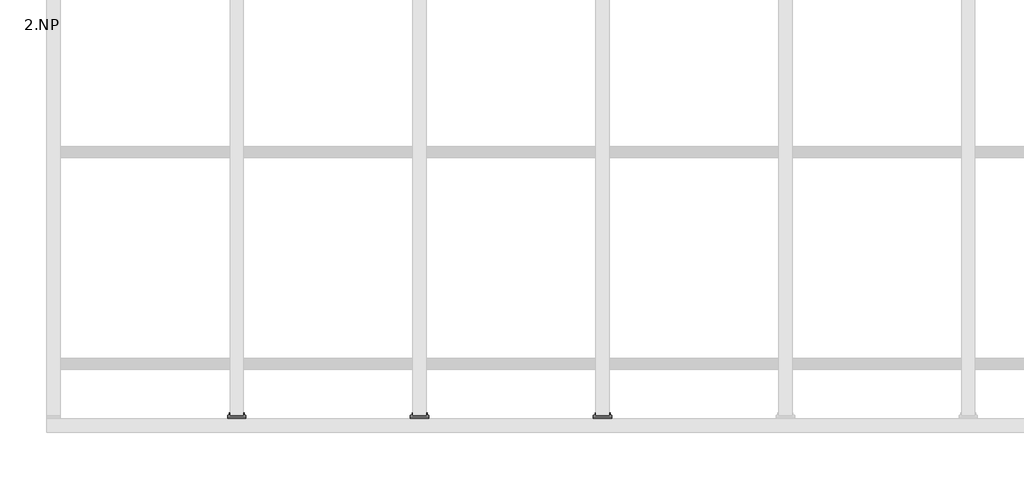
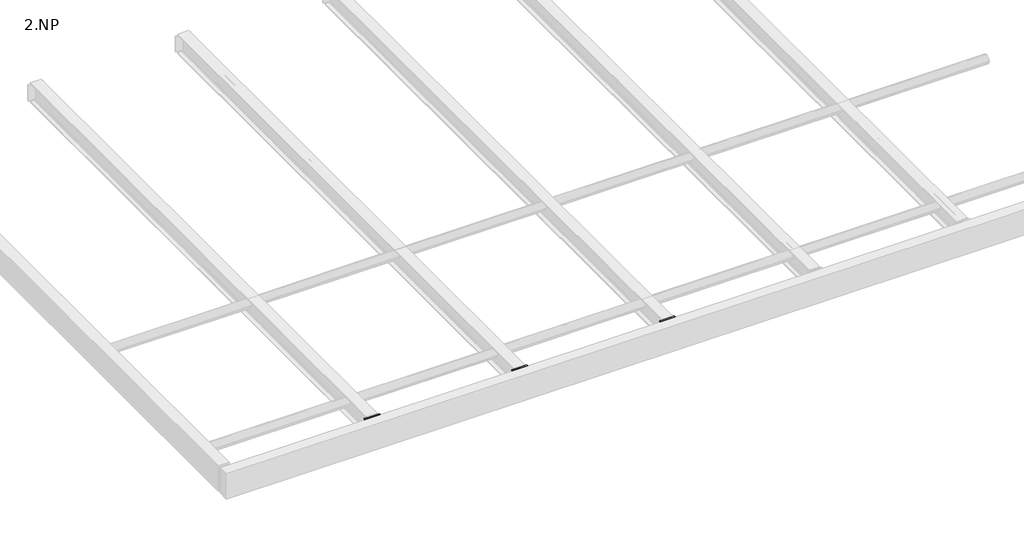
# One storey, part 3 of 18: 12 proxies.
"""IFC4 building model written with IfcOpenShell, lengths in millimetres."""

import ifcopenshell
import ifcopenshell.guid

model = None  # the IFC model being written
_history = None  # IfcOwnerHistory: only IFC2X3 demands one
_inside = {}  # id of a spatial element -> (the spatial element, [elements in it])
_under = {}  # id of a project, library or spatial element -> (it, [spatial elements below it])
_declared = {}  # id of a project -> (the project, [libraries it declares])
_typed = {}  # id of a type object -> (the type object, [elements of that type])
_made_of = {}  # id of a material, layer set ... -> (it, [elements and type objects made of it])


def new_model(schema):
    """Start an empty IFC model of exactly this schema.

    Asked for "IFC4X3", IfcOpenShell would pick the latest addendum, in which some entities
    have other attributes; the version numbers below select the first issue.
    IFC2X3 requires an IfcOwnerHistory on every rooted entity: one is made here for all.
    """
    global model, _history
    if schema == "IFC4X3":
        model = ifcopenshell.file(schema_version=(4, 3, 0, 0))
    else:
        model = ifcopenshell.file(schema=schema)
    _inside.clear()
    _under.clear()
    _declared.clear()
    _typed.clear()
    _made_of.clear()
    _history = None
    if model.schema == "IFC2X3":
        org = make("IfcOrganization", Name="unknown")
        user = make(
            "IfcPersonAndOrganization",
            ThePerson=make("IfcPerson", FamilyName="unknown"),
            TheOrganization=org,
        )
        app = make(
            "IfcApplication",
            ApplicationDeveloper=org,
            Version="unknown",
            ApplicationFullName="unknown",
            ApplicationIdentifier="unknown",
        )
        _history = make(
            "IfcOwnerHistory",
            OwningUser=user,
            OwningApplication=app,
            ChangeAction="ADDED",
            CreationDate=0,
        )
    return model


def make(cls, **values):
    """One entity of the class cls with the attributes given. An attribute that is None is left unset."""
    return model.create_entity(
        cls, **{name: value for name, value in values.items() if value is not None}
    )


def rooted(cls, **values):
    """An entity with a GlobalId (a new one), such as an element, a storey or a relation."""
    return make(cls, GlobalId=ifcopenshell.guid.new(), OwnerHistory=_history, **values)


def si_unit(unit_type, name, prefix=None):
    """IfcSIUnit, for example si_unit("LENGTHUNIT", "METRE", prefix="MILLI")."""
    return make("IfcSIUnit", UnitType=unit_type, Prefix=prefix, Name=name)


def assignment(units):
    """IfcUnitAssignment: the units of a project."""
    return None if units is None else make("IfcUnitAssignment", Units=units)


def point(xyz):
    """IfcCartesianPoint."""
    return None if xyz is None else make("IfcCartesianPoint", Coordinates=xyz)


def direction(xyz):
    """IfcDirection."""
    return None if xyz is None else make("IfcDirection", DirectionRatios=xyz)


def frame(location, z_axis=None, x_axis=None):
    """IfcAxis2Placement3D, a coordinate frame: its origin and axes. An axis left out is left unset."""
    return make(
        "IfcAxis2Placement3D",
        Location=point(location),
        Axis=direction(z_axis),
        RefDirection=direction(x_axis),
    )


def frame_2d(location, x_axis=None):
    """IfcAxis2Placement2D, a coordinate frame in the plane: its origin and x axis."""
    return make(
        "IfcAxis2Placement2D", Location=point(location), RefDirection=direction(x_axis)
    )


def origin():
    """The frame at (0, 0, 0) with its axes left unset."""
    return frame((0.0, 0.0, 0.0))


def place(relative_to, where):
    """IfcLocalPlacement: puts the frame where relative to a parent placement (None: the world)."""
    return make(
        "IfcLocalPlacement", PlacementRelTo=relative_to, RelativePlacement=where
    )


def context(
    kind, dimensions, precision=None, world=None, true_north=None, identifier=None
):
    """IfcGeometricRepresentationContext, for example the 3D "Model" context."""
    return make(
        "IfcGeometricRepresentationContext",
        ContextIdentifier=identifier,
        ContextType=kind,
        CoordinateSpaceDimension=dimensions,
        Precision=precision,
        WorldCoordinateSystem=world,
        TrueNorth=true_north,
    )


def project(units=None, contexts=None):
    """IfcProject with its units and contexts."""
    return rooted(
        "IfcProject",
        Name="project",
        RepresentationContexts=contexts,
        UnitsInContext=assignment(units),
    )


def spatial(cls, under=None, at=None, **own):
    """A site, building, storey or space (cls), placed at a placement, below another one or the project."""
    s = rooted(cls, ObjectPlacement=at, **own)
    if under is not None:
        _under.setdefault(under.id(), (under, []))[1].append(s)
    return s


def polyline(points):
    """IfcPolyline through the points."""
    return make("IfcPolyline", Points=[point(p) for p in points])


def circle_curve(where, radius):
    """IfcCircle in the frame where."""
    return make("IfcCircle", Position=where, Radius=radius)


def trimmed(basis, trim1, trim2, sense, master):
    """IfcTrimmedCurve: the piece of a basis curve between two trims."""
    return make(
        "IfcTrimmedCurve",
        BasisCurve=basis,
        Trim1=trim1,
        Trim2=trim2,
        SenseAgreement=sense,
        MasterRepresentation=master,
    )


def segment(curve, same_sense, transition):
    """IfcCompositeCurveSegment."""
    return make(
        "IfcCompositeCurveSegment",
        Transition=transition,
        SameSense=same_sense,
        ParentCurve=curve,
    )


def composite_curve(segments, self_intersect=None):
    """IfcCompositeCurve: segments joined end to end."""
    return make("IfcCompositeCurve", Segments=segments, SelfIntersect=self_intersect)


def outline(outer, holes=None, kind="AREA"):
    """IfcArbitraryClosedProfileDef: a profile drawn as a closed curve; with holes, ...WithVoids."""
    if holes is None:
        return make("IfcArbitraryClosedProfileDef", ProfileType=kind, OuterCurve=outer)
    return make(
        "IfcArbitraryProfileDefWithVoids",
        ProfileType=kind,
        OuterCurve=outer,
        InnerCurves=holes,
    )


def extrude(swept, where, along, depth):
    """IfcExtrudedAreaSolid: the profile swept, set in the frame where, extruded along a direction by depth."""
    return make(
        "IfcExtrudedAreaSolid",
        SweptArea=swept,
        Position=where,
        ExtrudedDirection=direction(along),
        Depth=depth,
    )


def shape(context_of_items, identifier, shape_type, items):
    """IfcShapeRepresentation: the items that make up one representation, for example the "Body"."""
    return make(
        "IfcShapeRepresentation",
        ContextOfItems=context_of_items,
        RepresentationIdentifier=identifier,
        RepresentationType=shape_type,
        Items=items,
    )


def made_of(thing, what):
    """Note that an element or type object is made of a material, layer set ...; save() writes the relation."""
    if what is not None:
        _made_of.setdefault(what.id(), (what, []))[1].append(thing)
    return thing


def element(
    cls,
    number,
    at=None,
    inside=None,
    cuts=None,
    type_object=None,
    material=None,
    context=None,
    identifier="Body",
    shape_type=None,
    held_by="IfcProductDefinitionShape",
    body=None,
    shapes=None,
    **own,
):
    """One element of the class cls, such as IfcWall. Its Tag is "e" and its number.

    at: its placement. inside: the storey or other place that contains it. cuts: it is an
    opening in that element (IfcRelVoidsElement). A single representation is given by context,
    identifier, shape_type and body (its items); several are given by shapes. held_by: the class
    of the entity that holds the representations. save() writes the other relations.
    """
    e = rooted(cls, Tag="e%d" % number, ObjectPlacement=at, **own)
    if body is not None:
        shapes = [shape(context, identifier, shape_type, body)]
    if shapes is not None:
        e.Representation = make(held_by, Representations=shapes)
    if inside is not None:
        _inside.setdefault(inside.id(), (inside, []))[1].append(e)
    if cuts is not None:
        rooted(
            "IfcRelVoidsElement", RelatingBuildingElement=cuts, RelatedOpeningElement=e
        )
    if type_object is not None:
        _typed.setdefault(type_object.id(), (type_object, []))[1].append(e)
    return made_of(e, material)


def aggregate(whole, parts):
    """IfcRelAggregates: a whole, such as a stair, and the parts it consists of."""
    return rooted("IfcRelAggregates", RelatingObject=whole, RelatedObjects=parts)


def save(model, path):
    """Write the relations noted so far, then the file.

    IfcRelAggregates (storeys below a building ...), IfcRelContainedInSpatialStructure (elements
    in a storey), IfcRelDefinesByType, IfcRelAssociatesMaterial and IfcRelDeclares: one each for
    every whole, place, type object, material and project.
    """
    for whole, parts in _under.values():
        aggregate(whole, parts)
    for where, things in _inside.values():
        rooted(
            "IfcRelContainedInSpatialStructure",
            RelatedElements=things,
            RelatingStructure=where,
        )
    for kind, things in _typed.values():
        rooted("IfcRelDefinesByType", RelatedObjects=things, RelatingType=kind)
    for what, things in _made_of.values():
        rooted("IfcRelAssociatesMaterial", RelatedObjects=things, RelatingMaterial=what)
    for by, libraries in _declared.values():
        rooted("IfcRelDeclares", RelatingContext=by, RelatedDefinitions=libraries)
    model.write(path)


model = new_model("IFC4")

# Units and contexts
model_context = context("Model", 3, world=origin())
ifc_project = project(units=[si_unit("LENGTHUNIT", "METRE", prefix="MILLI")], contexts=[model_context])

# Site, building, storey
site = spatial("IfcSite", under=ifc_project)
building = spatial("IfcBuilding", under=site)
storey = spatial("IfcBuildingStorey", under=building, Name="2.NP", Elevation=3000.0)

# Proxies
placement = place(None, origin())
element("IfcBuildingElementProxy", 1, Name="PLECH", ObjectType="PLECH", at=placement, inside=storey, context=model_context, shape_type="SweptSolid", body=[
    extrude(outline(polyline([(3000.0, -180.0), (3100.0, -180.0), (3100.0, -190.0), (3000.0, -190.0), (3000.0, -180.0)])), frame((0.0, 0.0, 3166.5), z_axis=(0.0, 0.0, 1.0), x_axis=(1.0, 0.0, 0.0)), (0.0, 0.0, 1.0), 127.0),
])
element("IfcBuildingElementProxy", 2, Name="PLECH", ObjectType="PLECH", at=placement, inside=storey, context=model_context, shape_type="SweptSolid", body=[
    extrude(outline(polyline([(2000.0, -180.0), (2100.0, -180.0), (2100.0, -190.0), (2000.0, -190.0), (2000.0, -180.0)])), frame((0.0, 0.0, 3166.5), z_axis=(0.0, 0.0, 1.0), x_axis=(1.0, 0.0, 0.0)), (0.0, 0.0, 1.0), 127.0),
])
element("IfcBuildingElementProxy", 3, Name="PLECH", ObjectType="PLECH", at=placement, inside=storey, context=model_context, shape_type="SweptSolid", body=[
    extrude(outline(polyline([(1000.0, -180.0), (1100.0, -180.0), (1100.0, -190.0), (1000.0, -190.0), (1000.0, -180.0)])), frame((0.0, 0.0, 3166.5), z_axis=(0.0, 0.0, 1.0), x_axis=(1.0, 0.0, 0.0)), (0.0, 0.0, 1.0), 127.0),
])
element("IfcBuildingElementProxy", 4, Name="PLECH", ObjectType="PLECH", at=placement, inside=storey, context=model_context, shape_type="SweptSolid", body=[
    extrude(outline(polyline([(3000.0, -190.0), (3100.0, -190.0), (3100.0, -200.0), (3000.0, -200.0), (3000.0, -190.0)])), frame((0.0, 0.0, 3127.5), z_axis=(0.0, 0.0, 1.0), x_axis=(1.0, 0.0, 0.0)), (0.0, 0.0, 1.0), 166.0000153),
])
element("IfcBuildingElementProxy", 5, Name="PLECH", ObjectType="PLECH", at=placement, inside=storey, context=model_context, shape_type="SweptSolid", body=[
    extrude(outline(composite_curve([segment(polyline([(-200.0, 3289.5), (-200.0, 3130.5), (-249.5, 3130.5)]), True, "CONTINUOUS"), segment(trimmed(circle_curve(frame_2d((-269.5, 3130.5)), 20.0), [point((-249.5, 3130.5))], [point((-269.5, 3150.5))], True, "CARTESIAN"), True, "CONTINUOUS"), segment(polyline([(-269.5, 3150.5), (-269.5, 3269.5)]), True, "CONTINUOUS"), segment(trimmed(circle_curve(frame_2d((-269.5, 3289.5)), 20.0), [point((-269.5, 3269.5))], [point((-249.5, 3289.5))], True, "CARTESIAN"), True, "CONTINUOUS"), segment(polyline([(-249.5, 3289.5), (-200.0, 3289.5)]), True, "CONTINUOUS")], self_intersect=False)), frame((3046.0, 0.0, 0.0), z_axis=(1.0, 0.0, 0.0), x_axis=(0.0, 1.0, 0.0)), (0.0, 0.0, 1.0), 8.0),
])
element("IfcBuildingElementProxy", 6, Name="PLECH", ObjectType="PLECH", at=placement, inside=storey, context=model_context, shape_type="SweptSolid", body=[
    extrude(outline(polyline([(2000.0, -190.0), (2100.0, -190.0), (2100.0, -200.0), (2000.0, -200.0), (2000.0, -190.0)])), frame((0.0, 0.0, 3127.5), z_axis=(0.0, 0.0, 1.0), x_axis=(1.0, 0.0, 0.0)), (0.0, 0.0, 1.0), 166.0000153),
])
element("IfcBuildingElementProxy", 7, Name="PLECH", ObjectType="PLECH", at=placement, inside=storey, context=model_context, shape_type="SweptSolid", body=[
    extrude(outline(composite_curve([segment(polyline([(-200.0, 3289.5), (-200.0, 3130.5), (-249.5, 3130.5)]), True, "CONTINUOUS"), segment(trimmed(circle_curve(frame_2d((-269.5, 3130.5)), 20.0), [point((-249.5, 3130.5))], [point((-269.5, 3150.5))], True, "CARTESIAN"), True, "CONTINUOUS"), segment(polyline([(-269.5, 3150.5), (-269.5, 3269.5)]), True, "CONTINUOUS"), segment(trimmed(circle_curve(frame_2d((-269.5, 3289.5)), 20.0), [point((-269.5, 3269.5))], [point((-249.5, 3289.5))], True, "CARTESIAN"), True, "CONTINUOUS"), segment(polyline([(-249.5, 3289.5), (-200.0, 3289.5)]), True, "CONTINUOUS")], self_intersect=False)), frame((2046.0, 0.0, 0.0), z_axis=(1.0, 0.0, 0.0), x_axis=(0.0, 1.0, 0.0)), (0.0, 0.0, 1.0), 8.0),
])
element("IfcBuildingElementProxy", 8, Name="PLECH", ObjectType="PLECH", at=placement, inside=storey, context=model_context, shape_type="SweptSolid", body=[
    extrude(outline(polyline([(1000.0, -190.0), (1100.0, -190.0), (1100.0, -200.0), (1000.0, -200.0), (1000.0, -190.0)])), frame((0.0, 0.0, 3127.5), z_axis=(0.0, 0.0, 1.0), x_axis=(1.0, 0.0, 0.0)), (0.0, 0.0, 1.0), 166.0000153),
])
element("IfcBuildingElementProxy", 9, Name="PLECH", ObjectType="PLECH", at=placement, inside=storey, context=model_context, shape_type="SweptSolid", body=[
    extrude(outline(composite_curve([segment(polyline([(-200.0, 3289.5), (-200.0, 3130.5), (-249.5, 3130.5)]), True, "CONTINUOUS"), segment(trimmed(circle_curve(frame_2d((-269.5, 3130.5)), 20.0), [point((-249.5, 3130.5))], [point((-269.5, 3150.5))], True, "CARTESIAN"), True, "CONTINUOUS"), segment(polyline([(-269.5, 3150.5), (-269.5, 3269.5)]), True, "CONTINUOUS"), segment(trimmed(circle_curve(frame_2d((-269.5, 3289.5)), 20.0), [point((-269.5, 3269.5))], [point((-249.5, 3289.5))], True, "CARTESIAN"), True, "CONTINUOUS"), segment(polyline([(-249.5, 3289.5), (-200.0, 3289.5)]), True, "CONTINUOUS")], self_intersect=False)), frame((1046.0, 0.0, 0.0), z_axis=(1.0, 0.0, 0.0), x_axis=(0.0, 1.0, 0.0)), (0.0, 0.0, 1.0), 8.0),
])
element("IfcBuildingElementProxy", 10, Name="Bolt assembly", ObjectType="Bolt assembly", at=placement, inside=storey, context=model_context, shape_type="SweptSolid", body=[
    extrude(outline(composite_curve([segment(trimmed(circle_curve(frame_2d((3260.0, 3020.0)), 6.5), [point((3260.0, 3026.5))], [point((3260.0, 3013.5))], False, "CARTESIAN"), True, "CONTINUOUS"), segment(trimmed(circle_curve(frame_2d((3260.0, 3020.0)), 6.5), [point((3260.0, 3013.5))], [point((3260.0, 3026.5))], False, "CARTESIAN"), True, "CONTINUOUS")], self_intersect=False)), frame((0.0, -199.9, 0.0), z_axis=(0.0, 1.0, 0.0), x_axis=(0.0, 0.0, 1.0)), (0.0, 0.0, 1.0), 10.0),
    extrude(outline(polyline([(3260.0, 3030.9696551), (3269.5, 3025.4848276), (3269.5, 3014.5151724), (3260.0, 3009.0303449), (3250.5, 3014.5151724), (3250.5, 3025.4848276), (3260.0, 3030.9696551)])), frame((0.0, -210.0, 0.0), z_axis=(0.0, 1.0, 0.0), x_axis=(0.0, 0.0, 1.0)), (0.0, 0.0, 1.0), 7.5),
    extrude(outline(composite_curve([segment(trimmed(circle_curve(frame_2d((3260.0, 3020.0)), 6.0), [point((3260.0, 3026.0))], [point((3260.0, 3014.0))], False, "CARTESIAN"), True, "CONTINUOUS"), segment(trimmed(circle_curve(frame_2d((3260.0, 3020.0)), 6.0), [point((3260.0, 3014.0))], [point((3260.0, 3026.0))], False, "CARTESIAN"), True, "CONTINUOUS")], self_intersect=False)), frame((0.0, -202.5, 0.0), z_axis=(0.0, 1.0, 0.0), x_axis=(0.0, 0.0, 1.0)), (0.0, 0.0, 1.0), 40.0),
    extrude(outline(composite_curve([segment(trimmed(circle_curve(frame_2d((3260.0, 3020.0)), 12.0), [point((3260.0, 3032.0))], [point((3260.0, 3008.0))], False, "CARTESIAN"), True, "CONTINUOUS"), segment(trimmed(circle_curve(frame_2d((3260.0, 3020.0)), 12.0), [point((3260.0, 3008.0))], [point((3260.0, 3032.0))], False, "CARTESIAN"), True, "CONTINUOUS")], self_intersect=False)), frame((0.0, -202.5, 0.0), z_axis=(0.0, 1.0, 0.0), x_axis=(0.0, 0.0, 1.0)), (0.0, 0.0, 1.0), 2.5),
    extrude(outline(composite_curve([segment(trimmed(circle_curve(frame_2d((3260.0, 3020.0)), 12.0), [point((3260.0, 3032.0))], [point((3260.0, 3008.0))], False, "CARTESIAN"), True, "CONTINUOUS"), segment(trimmed(circle_curve(frame_2d((3260.0, 3020.0)), 12.0), [point((3260.0, 3008.0))], [point((3260.0, 3032.0))], False, "CARTESIAN"), True, "CONTINUOUS")], self_intersect=False)), frame((0.0, -180.0, 0.0), z_axis=(0.0, 1.0, 0.0), x_axis=(0.0, 0.0, 1.0)), (0.0, 0.0, 1.0), 2.5),
    extrude(outline(polyline([(3260.0, 3030.9696551), (3269.5, 3025.4848276), (3269.5, 3014.5151724), (3260.0, 3009.0303449), (3250.5, 3014.5151724), (3250.5, 3025.4848276), (3260.0, 3030.9696551)])), frame((0.0, -177.5, 0.0), z_axis=(0.0, 1.0, 0.0), x_axis=(0.0, 0.0, 1.0)), (0.0, 0.0, 1.0), 10.0),
    extrude(outline(composite_curve([segment(trimmed(circle_curve(frame_2d((3260.0, 3020.0)), 6.5), [point((3260.0, 3026.5))], [point((3260.0, 3013.5))], False, "CARTESIAN"), True, "CONTINUOUS"), segment(trimmed(circle_curve(frame_2d((3260.0, 3020.0)), 6.5), [point((3260.0, 3013.5))], [point((3260.0, 3026.5))], False, "CARTESIAN"), True, "CONTINUOUS")], self_intersect=False)), frame((0.0, -190.1, 0.0), z_axis=(0.0, 1.0, 0.0), x_axis=(0.0, 0.0, 1.0)), (0.0, 0.0, 1.0), 10.1),
    extrude(outline(composite_curve([segment(trimmed(circle_curve(frame_2d((3260.0, 3080.0)), 6.5), [point((3260.0, 3086.5))], [point((3260.0, 3073.5))], False, "CARTESIAN"), True, "CONTINUOUS"), segment(trimmed(circle_curve(frame_2d((3260.0, 3080.0)), 6.5), [point((3260.0, 3073.5))], [point((3260.0, 3086.5))], False, "CARTESIAN"), True, "CONTINUOUS")], self_intersect=False)), frame((0.0, -199.9, 0.0), z_axis=(0.0, 1.0, 0.0), x_axis=(0.0, 0.0, 1.0)), (0.0, 0.0, 1.0), 10.0),
    extrude(outline(polyline([(3260.0, 3090.9696551), (3269.5, 3085.4848276), (3269.5, 3074.5151724), (3260.0, 3069.0303449), (3250.5, 3074.5151724), (3250.5, 3085.4848276), (3260.0, 3090.9696551)])), frame((0.0, -210.0, 0.0), z_axis=(0.0, 1.0, 0.0), x_axis=(0.0, 0.0, 1.0)), (0.0, 0.0, 1.0), 7.5),
    extrude(outline(composite_curve([segment(trimmed(circle_curve(frame_2d((3260.0, 3080.0)), 6.0), [point((3260.0, 3086.0))], [point((3260.0, 3074.0))], False, "CARTESIAN"), True, "CONTINUOUS"), segment(trimmed(circle_curve(frame_2d((3260.0, 3080.0)), 6.0), [point((3260.0, 3074.0))], [point((3260.0, 3086.0))], False, "CARTESIAN"), True, "CONTINUOUS")], self_intersect=False)), frame((0.0, -202.5, 0.0), z_axis=(0.0, 1.0, 0.0), x_axis=(0.0, 0.0, 1.0)), (0.0, 0.0, 1.0), 40.0),
    extrude(outline(composite_curve([segment(trimmed(circle_curve(frame_2d((3260.0, 3080.0)), 12.0), [point((3260.0, 3092.0))], [point((3260.0, 3068.0))], False, "CARTESIAN"), True, "CONTINUOUS"), segment(trimmed(circle_curve(frame_2d((3260.0, 3080.0)), 12.0), [point((3260.0, 3068.0))], [point((3260.0, 3092.0))], False, "CARTESIAN"), True, "CONTINUOUS")], self_intersect=False)), frame((0.0, -202.5, 0.0), z_axis=(0.0, 1.0, 0.0), x_axis=(0.0, 0.0, 1.0)), (0.0, 0.0, 1.0), 2.5),
    extrude(outline(composite_curve([segment(trimmed(circle_curve(frame_2d((3260.0, 3080.0)), 12.0), [point((3260.0, 3092.0))], [point((3260.0, 3068.0))], False, "CARTESIAN"), True, "CONTINUOUS"), segment(trimmed(circle_curve(frame_2d((3260.0, 3080.0)), 12.0), [point((3260.0, 3068.0))], [point((3260.0, 3092.0))], False, "CARTESIAN"), True, "CONTINUOUS")], self_intersect=False)), frame((0.0, -180.0, 0.0), z_axis=(0.0, 1.0, 0.0), x_axis=(0.0, 0.0, 1.0)), (0.0, 0.0, 1.0), 2.5),
    extrude(outline(polyline([(3260.0, 3090.9696551), (3269.5, 3085.4848276), (3269.5, 3074.5151724), (3260.0, 3069.0303449), (3250.5, 3074.5151724), (3250.5, 3085.4848276), (3260.0, 3090.9696551)])), frame((0.0, -177.5, 0.0), z_axis=(0.0, 1.0, 0.0), x_axis=(0.0, 0.0, 1.0)), (0.0, 0.0, 1.0), 10.0),
    extrude(outline(composite_curve([segment(trimmed(circle_curve(frame_2d((3260.0, 3080.0)), 6.5), [point((3260.0, 3086.5))], [point((3260.0, 3073.5))], False, "CARTESIAN"), True, "CONTINUOUS"), segment(trimmed(circle_curve(frame_2d((3260.0, 3080.0)), 6.5), [point((3260.0, 3073.5))], [point((3260.0, 3086.5))], False, "CARTESIAN"), True, "CONTINUOUS")], self_intersect=False)), frame((0.0, -190.1, 0.0), z_axis=(0.0, 1.0, 0.0), x_axis=(0.0, 0.0, 1.0)), (0.0, 0.0, 1.0), 10.1),
    extrude(outline(composite_curve([segment(trimmed(circle_curve(frame_2d((3200.0, 3020.0)), 6.5), [point((3200.0, 3026.5))], [point((3200.0, 3013.5))], False, "CARTESIAN"), True, "CONTINUOUS"), segment(trimmed(circle_curve(frame_2d((3200.0, 3020.0)), 6.5), [point((3200.0, 3013.5))], [point((3200.0, 3026.5))], False, "CARTESIAN"), True, "CONTINUOUS")], self_intersect=False)), frame((0.0, -199.9, 0.0), z_axis=(0.0, 1.0, 0.0), x_axis=(0.0, 0.0, 1.0)), (0.0, 0.0, 1.0), 10.0),
    extrude(outline(polyline([(3200.0, 3030.9696551), (3209.5, 3025.4848276), (3209.5, 3014.5151724), (3200.0, 3009.0303449), (3190.5, 3014.5151724), (3190.5, 3025.4848276), (3200.0, 3030.9696551)])), frame((0.0, -210.0, 0.0), z_axis=(0.0, 1.0, 0.0), x_axis=(0.0, 0.0, 1.0)), (0.0, 0.0, 1.0), 7.5),
    extrude(outline(composite_curve([segment(trimmed(circle_curve(frame_2d((3200.0, 3020.0)), 6.0), [point((3200.0, 3026.0))], [point((3200.0, 3014.0))], False, "CARTESIAN"), True, "CONTINUOUS"), segment(trimmed(circle_curve(frame_2d((3200.0, 3020.0)), 6.0), [point((3200.0, 3014.0))], [point((3200.0, 3026.0))], False, "CARTESIAN"), True, "CONTINUOUS")], self_intersect=False)), frame((0.0, -202.5, 0.0), z_axis=(0.0, 1.0, 0.0), x_axis=(0.0, 0.0, 1.0)), (0.0, 0.0, 1.0), 40.0),
    extrude(outline(composite_curve([segment(trimmed(circle_curve(frame_2d((3200.0, 3020.0)), 12.0), [point((3200.0, 3032.0))], [point((3200.0, 3008.0))], False, "CARTESIAN"), True, "CONTINUOUS"), segment(trimmed(circle_curve(frame_2d((3200.0, 3020.0)), 12.0), [point((3200.0, 3008.0))], [point((3200.0, 3032.0))], False, "CARTESIAN"), True, "CONTINUOUS")], self_intersect=False)), frame((0.0, -202.5, 0.0), z_axis=(0.0, 1.0, 0.0), x_axis=(0.0, 0.0, 1.0)), (0.0, 0.0, 1.0), 2.5),
    extrude(outline(composite_curve([segment(trimmed(circle_curve(frame_2d((3200.0, 3020.0)), 12.0), [point((3200.0, 3032.0))], [point((3200.0, 3008.0))], False, "CARTESIAN"), True, "CONTINUOUS"), segment(trimmed(circle_curve(frame_2d((3200.0, 3020.0)), 12.0), [point((3200.0, 3008.0))], [point((3200.0, 3032.0))], False, "CARTESIAN"), True, "CONTINUOUS")], self_intersect=False)), frame((0.0, -180.0, 0.0), z_axis=(0.0, 1.0, 0.0), x_axis=(0.0, 0.0, 1.0)), (0.0, 0.0, 1.0), 2.5),
    extrude(outline(polyline([(3200.0, 3030.9696551), (3209.5, 3025.4848276), (3209.5, 3014.5151724), (3200.0, 3009.0303449), (3190.5, 3014.5151724), (3190.5, 3025.4848276), (3200.0, 3030.9696551)])), frame((0.0, -177.5, 0.0), z_axis=(0.0, 1.0, 0.0), x_axis=(0.0, 0.0, 1.0)), (0.0, 0.0, 1.0), 10.0),
    extrude(outline(composite_curve([segment(trimmed(circle_curve(frame_2d((3200.0, 3020.0)), 6.5), [point((3200.0, 3026.5))], [point((3200.0, 3013.5))], False, "CARTESIAN"), True, "CONTINUOUS"), segment(trimmed(circle_curve(frame_2d((3200.0, 3020.0)), 6.5), [point((3200.0, 3013.5))], [point((3200.0, 3026.5))], False, "CARTESIAN"), True, "CONTINUOUS")], self_intersect=False)), frame((0.0, -190.1, 0.0), z_axis=(0.0, 1.0, 0.0), x_axis=(0.0, 0.0, 1.0)), (0.0, 0.0, 1.0), 10.1),
    extrude(outline(composite_curve([segment(trimmed(circle_curve(frame_2d((3200.0, 3080.0)), 6.5), [point((3200.0, 3086.5))], [point((3200.0, 3073.5))], False, "CARTESIAN"), True, "CONTINUOUS"), segment(trimmed(circle_curve(frame_2d((3200.0, 3080.0)), 6.5), [point((3200.0, 3073.5))], [point((3200.0, 3086.5))], False, "CARTESIAN"), True, "CONTINUOUS")], self_intersect=False)), frame((0.0, -199.9, 0.0), z_axis=(0.0, 1.0, 0.0), x_axis=(0.0, 0.0, 1.0)), (0.0, 0.0, 1.0), 10.0),
    extrude(outline(polyline([(3200.0, 3090.9696551), (3209.5, 3085.4848276), (3209.5, 3074.5151724), (3200.0, 3069.0303449), (3190.5, 3074.5151724), (3190.5, 3085.4848276), (3200.0, 3090.9696551)])), frame((0.0, -210.0, 0.0), z_axis=(0.0, 1.0, 0.0), x_axis=(0.0, 0.0, 1.0)), (0.0, 0.0, 1.0), 7.5),
    extrude(outline(composite_curve([segment(trimmed(circle_curve(frame_2d((3200.0, 3080.0)), 6.0), [point((3200.0, 3086.0))], [point((3200.0, 3074.0))], False, "CARTESIAN"), True, "CONTINUOUS"), segment(trimmed(circle_curve(frame_2d((3200.0, 3080.0)), 6.0), [point((3200.0, 3074.0))], [point((3200.0, 3086.0))], False, "CARTESIAN"), True, "CONTINUOUS")], self_intersect=False)), frame((0.0, -202.5, 0.0), z_axis=(0.0, 1.0, 0.0), x_axis=(0.0, 0.0, 1.0)), (0.0, 0.0, 1.0), 40.0),
    extrude(outline(composite_curve([segment(trimmed(circle_curve(frame_2d((3200.0, 3080.0)), 12.0), [point((3200.0, 3092.0))], [point((3200.0, 3068.0))], False, "CARTESIAN"), True, "CONTINUOUS"), segment(trimmed(circle_curve(frame_2d((3200.0, 3080.0)), 12.0), [point((3200.0, 3068.0))], [point((3200.0, 3092.0))], False, "CARTESIAN"), True, "CONTINUOUS")], self_intersect=False)), frame((0.0, -202.5, 0.0), z_axis=(0.0, 1.0, 0.0), x_axis=(0.0, 0.0, 1.0)), (0.0, 0.0, 1.0), 2.5),
    extrude(outline(composite_curve([segment(trimmed(circle_curve(frame_2d((3200.0, 3080.0)), 12.0), [point((3200.0, 3092.0))], [point((3200.0, 3068.0))], False, "CARTESIAN"), True, "CONTINUOUS"), segment(trimmed(circle_curve(frame_2d((3200.0, 3080.0)), 12.0), [point((3200.0, 3068.0))], [point((3200.0, 3092.0))], False, "CARTESIAN"), True, "CONTINUOUS")], self_intersect=False)), frame((0.0, -180.0, 0.0), z_axis=(0.0, 1.0, 0.0), x_axis=(0.0, 0.0, 1.0)), (0.0, 0.0, 1.0), 2.5),
    extrude(outline(polyline([(3200.0, 3090.9696551), (3209.5, 3085.4848276), (3209.5, 3074.5151724), (3200.0, 3069.0303449), (3190.5, 3074.5151724), (3190.5, 3085.4848276), (3200.0, 3090.9696551)])), frame((0.0, -177.5, 0.0), z_axis=(0.0, 1.0, 0.0), x_axis=(0.0, 0.0, 1.0)), (0.0, 0.0, 1.0), 10.0),
    extrude(outline(composite_curve([segment(trimmed(circle_curve(frame_2d((3200.0, 3080.0)), 6.5), [point((3200.0, 3086.5))], [point((3200.0, 3073.5))], False, "CARTESIAN"), True, "CONTINUOUS"), segment(trimmed(circle_curve(frame_2d((3200.0, 3080.0)), 6.5), [point((3200.0, 3073.5))], [point((3200.0, 3086.5))], False, "CARTESIAN"), True, "CONTINUOUS")], self_intersect=False)), frame((0.0, -190.1, 0.0), z_axis=(0.0, 1.0, 0.0), x_axis=(0.0, 0.0, 1.0)), (0.0, 0.0, 1.0), 10.1),
])
element("IfcBuildingElementProxy", 11, Name="Bolt assembly", ObjectType="Bolt assembly", at=placement, inside=storey, context=model_context, shape_type="SweptSolid", body=[
    extrude(outline(composite_curve([segment(trimmed(circle_curve(frame_2d((3260.0, 2020.0)), 6.5), [point((3260.0, 2026.5))], [point((3260.0, 2013.5))], False, "CARTESIAN"), True, "CONTINUOUS"), segment(trimmed(circle_curve(frame_2d((3260.0, 2020.0)), 6.5), [point((3260.0, 2013.5))], [point((3260.0, 2026.5))], False, "CARTESIAN"), True, "CONTINUOUS")], self_intersect=False)), frame((0.0, -199.9, 0.0), z_axis=(0.0, 1.0, 0.0), x_axis=(0.0, 0.0, 1.0)), (0.0, 0.0, 1.0), 10.0),
    extrude(outline(polyline([(3260.0, 2030.9696551), (3269.5, 2025.4848276), (3269.5, 2014.5151724), (3260.0, 2009.0303449), (3250.5, 2014.5151724), (3250.5, 2025.4848276), (3260.0, 2030.9696551)])), frame((0.0, -210.0, 0.0), z_axis=(0.0, 1.0, 0.0), x_axis=(0.0, 0.0, 1.0)), (0.0, 0.0, 1.0), 7.5),
    extrude(outline(composite_curve([segment(trimmed(circle_curve(frame_2d((3260.0, 2020.0)), 6.0), [point((3260.0, 2026.0))], [point((3260.0, 2014.0))], False, "CARTESIAN"), True, "CONTINUOUS"), segment(trimmed(circle_curve(frame_2d((3260.0, 2020.0)), 6.0), [point((3260.0, 2014.0))], [point((3260.0, 2026.0))], False, "CARTESIAN"), True, "CONTINUOUS")], self_intersect=False)), frame((0.0, -202.5, 0.0), z_axis=(0.0, 1.0, 0.0), x_axis=(0.0, 0.0, 1.0)), (0.0, 0.0, 1.0), 40.0),
    extrude(outline(composite_curve([segment(trimmed(circle_curve(frame_2d((3260.0, 2020.0)), 12.0), [point((3260.0, 2032.0))], [point((3260.0, 2008.0))], False, "CARTESIAN"), True, "CONTINUOUS"), segment(trimmed(circle_curve(frame_2d((3260.0, 2020.0)), 12.0), [point((3260.0, 2008.0))], [point((3260.0, 2032.0))], False, "CARTESIAN"), True, "CONTINUOUS")], self_intersect=False)), frame((0.0, -202.5, 0.0), z_axis=(0.0, 1.0, 0.0), x_axis=(0.0, 0.0, 1.0)), (0.0, 0.0, 1.0), 2.5),
    extrude(outline(composite_curve([segment(trimmed(circle_curve(frame_2d((3260.0, 2020.0)), 12.0), [point((3260.0, 2032.0))], [point((3260.0, 2008.0))], False, "CARTESIAN"), True, "CONTINUOUS"), segment(trimmed(circle_curve(frame_2d((3260.0, 2020.0)), 12.0), [point((3260.0, 2008.0))], [point((3260.0, 2032.0))], False, "CARTESIAN"), True, "CONTINUOUS")], self_intersect=False)), frame((0.0, -180.0, 0.0), z_axis=(0.0, 1.0, 0.0), x_axis=(0.0, 0.0, 1.0)), (0.0, 0.0, 1.0), 2.5),
    extrude(outline(polyline([(3260.0, 2030.9696551), (3269.5, 2025.4848276), (3269.5, 2014.5151724), (3260.0, 2009.0303449), (3250.5, 2014.5151724), (3250.5, 2025.4848276), (3260.0, 2030.9696551)])), frame((0.0, -177.5, 0.0), z_axis=(0.0, 1.0, 0.0), x_axis=(0.0, 0.0, 1.0)), (0.0, 0.0, 1.0), 10.0),
    extrude(outline(composite_curve([segment(trimmed(circle_curve(frame_2d((3260.0, 2020.0)), 6.5), [point((3260.0, 2026.5))], [point((3260.0, 2013.5))], False, "CARTESIAN"), True, "CONTINUOUS"), segment(trimmed(circle_curve(frame_2d((3260.0, 2020.0)), 6.5), [point((3260.0, 2013.5))], [point((3260.0, 2026.5))], False, "CARTESIAN"), True, "CONTINUOUS")], self_intersect=False)), frame((0.0, -190.1, 0.0), z_axis=(0.0, 1.0, 0.0), x_axis=(0.0, 0.0, 1.0)), (0.0, 0.0, 1.0), 10.1),
    extrude(outline(composite_curve([segment(trimmed(circle_curve(frame_2d((3260.0, 2080.0)), 6.5), [point((3260.0, 2086.5))], [point((3260.0, 2073.5))], False, "CARTESIAN"), True, "CONTINUOUS"), segment(trimmed(circle_curve(frame_2d((3260.0, 2080.0)), 6.5), [point((3260.0, 2073.5))], [point((3260.0, 2086.5))], False, "CARTESIAN"), True, "CONTINUOUS")], self_intersect=False)), frame((0.0, -199.9, 0.0), z_axis=(0.0, 1.0, 0.0), x_axis=(0.0, 0.0, 1.0)), (0.0, 0.0, 1.0), 10.0),
    extrude(outline(polyline([(3260.0, 2090.9696551), (3269.5, 2085.4848276), (3269.5, 2074.5151724), (3260.0, 2069.0303449), (3250.5, 2074.5151724), (3250.5, 2085.4848276), (3260.0, 2090.9696551)])), frame((0.0, -210.0, 0.0), z_axis=(0.0, 1.0, 0.0), x_axis=(0.0, 0.0, 1.0)), (0.0, 0.0, 1.0), 7.5),
    extrude(outline(composite_curve([segment(trimmed(circle_curve(frame_2d((3260.0, 2080.0)), 6.0), [point((3260.0, 2086.0))], [point((3260.0, 2074.0))], False, "CARTESIAN"), True, "CONTINUOUS"), segment(trimmed(circle_curve(frame_2d((3260.0, 2080.0)), 6.0), [point((3260.0, 2074.0))], [point((3260.0, 2086.0))], False, "CARTESIAN"), True, "CONTINUOUS")], self_intersect=False)), frame((0.0, -202.5, 0.0), z_axis=(0.0, 1.0, 0.0), x_axis=(0.0, 0.0, 1.0)), (0.0, 0.0, 1.0), 40.0),
    extrude(outline(composite_curve([segment(trimmed(circle_curve(frame_2d((3260.0, 2080.0)), 12.0), [point((3260.0, 2092.0))], [point((3260.0, 2068.0))], False, "CARTESIAN"), True, "CONTINUOUS"), segment(trimmed(circle_curve(frame_2d((3260.0, 2080.0)), 12.0), [point((3260.0, 2068.0))], [point((3260.0, 2092.0))], False, "CARTESIAN"), True, "CONTINUOUS")], self_intersect=False)), frame((0.0, -202.5, 0.0), z_axis=(0.0, 1.0, 0.0), x_axis=(0.0, 0.0, 1.0)), (0.0, 0.0, 1.0), 2.5),
    extrude(outline(composite_curve([segment(trimmed(circle_curve(frame_2d((3260.0, 2080.0)), 12.0), [point((3260.0, 2092.0))], [point((3260.0, 2068.0))], False, "CARTESIAN"), True, "CONTINUOUS"), segment(trimmed(circle_curve(frame_2d((3260.0, 2080.0)), 12.0), [point((3260.0, 2068.0))], [point((3260.0, 2092.0))], False, "CARTESIAN"), True, "CONTINUOUS")], self_intersect=False)), frame((0.0, -180.0, 0.0), z_axis=(0.0, 1.0, 0.0), x_axis=(0.0, 0.0, 1.0)), (0.0, 0.0, 1.0), 2.5),
    extrude(outline(polyline([(3260.0, 2090.9696551), (3269.5, 2085.4848276), (3269.5, 2074.5151724), (3260.0, 2069.0303449), (3250.5, 2074.5151724), (3250.5, 2085.4848276), (3260.0, 2090.9696551)])), frame((0.0, -177.5, 0.0), z_axis=(0.0, 1.0, 0.0), x_axis=(0.0, 0.0, 1.0)), (0.0, 0.0, 1.0), 10.0),
    extrude(outline(composite_curve([segment(trimmed(circle_curve(frame_2d((3260.0, 2080.0)), 6.5), [point((3260.0, 2086.5))], [point((3260.0, 2073.5))], False, "CARTESIAN"), True, "CONTINUOUS"), segment(trimmed(circle_curve(frame_2d((3260.0, 2080.0)), 6.5), [point((3260.0, 2073.5))], [point((3260.0, 2086.5))], False, "CARTESIAN"), True, "CONTINUOUS")], self_intersect=False)), frame((0.0, -190.1, 0.0), z_axis=(0.0, 1.0, 0.0), x_axis=(0.0, 0.0, 1.0)), (0.0, 0.0, 1.0), 10.1),
    extrude(outline(composite_curve([segment(trimmed(circle_curve(frame_2d((3200.0, 2020.0)), 6.5), [point((3200.0, 2026.5))], [point((3200.0, 2013.5))], False, "CARTESIAN"), True, "CONTINUOUS"), segment(trimmed(circle_curve(frame_2d((3200.0, 2020.0)), 6.5), [point((3200.0, 2013.5))], [point((3200.0, 2026.5))], False, "CARTESIAN"), True, "CONTINUOUS")], self_intersect=False)), frame((0.0, -199.9, 0.0), z_axis=(0.0, 1.0, 0.0), x_axis=(0.0, 0.0, 1.0)), (0.0, 0.0, 1.0), 10.0),
    extrude(outline(polyline([(3200.0, 2030.9696551), (3209.5, 2025.4848276), (3209.5, 2014.5151724), (3200.0, 2009.0303449), (3190.5, 2014.5151724), (3190.5, 2025.4848276), (3200.0, 2030.9696551)])), frame((0.0, -210.0, 0.0), z_axis=(0.0, 1.0, 0.0), x_axis=(0.0, 0.0, 1.0)), (0.0, 0.0, 1.0), 7.5),
    extrude(outline(composite_curve([segment(trimmed(circle_curve(frame_2d((3200.0, 2020.0)), 6.0), [point((3200.0, 2026.0))], [point((3200.0, 2014.0))], False, "CARTESIAN"), True, "CONTINUOUS"), segment(trimmed(circle_curve(frame_2d((3200.0, 2020.0)), 6.0), [point((3200.0, 2014.0))], [point((3200.0, 2026.0))], False, "CARTESIAN"), True, "CONTINUOUS")], self_intersect=False)), frame((0.0, -202.5, 0.0), z_axis=(0.0, 1.0, 0.0), x_axis=(0.0, 0.0, 1.0)), (0.0, 0.0, 1.0), 40.0),
    extrude(outline(composite_curve([segment(trimmed(circle_curve(frame_2d((3200.0, 2020.0)), 12.0), [point((3200.0, 2032.0))], [point((3200.0, 2008.0))], False, "CARTESIAN"), True, "CONTINUOUS"), segment(trimmed(circle_curve(frame_2d((3200.0, 2020.0)), 12.0), [point((3200.0, 2008.0))], [point((3200.0, 2032.0))], False, "CARTESIAN"), True, "CONTINUOUS")], self_intersect=False)), frame((0.0, -202.5, 0.0), z_axis=(0.0, 1.0, 0.0), x_axis=(0.0, 0.0, 1.0)), (0.0, 0.0, 1.0), 2.5),
    extrude(outline(composite_curve([segment(trimmed(circle_curve(frame_2d((3200.0, 2020.0)), 12.0), [point((3200.0, 2032.0))], [point((3200.0, 2008.0))], False, "CARTESIAN"), True, "CONTINUOUS"), segment(trimmed(circle_curve(frame_2d((3200.0, 2020.0)), 12.0), [point((3200.0, 2008.0))], [point((3200.0, 2032.0))], False, "CARTESIAN"), True, "CONTINUOUS")], self_intersect=False)), frame((0.0, -180.0, 0.0), z_axis=(0.0, 1.0, 0.0), x_axis=(0.0, 0.0, 1.0)), (0.0, 0.0, 1.0), 2.5),
    extrude(outline(polyline([(3200.0, 2030.9696551), (3209.5, 2025.4848276), (3209.5, 2014.5151724), (3200.0, 2009.0303449), (3190.5, 2014.5151724), (3190.5, 2025.4848276), (3200.0, 2030.9696551)])), frame((0.0, -177.5, 0.0), z_axis=(0.0, 1.0, 0.0), x_axis=(0.0, 0.0, 1.0)), (0.0, 0.0, 1.0), 10.0),
    extrude(outline(composite_curve([segment(trimmed(circle_curve(frame_2d((3200.0, 2020.0)), 6.5), [point((3200.0, 2026.5))], [point((3200.0, 2013.5))], False, "CARTESIAN"), True, "CONTINUOUS"), segment(trimmed(circle_curve(frame_2d((3200.0, 2020.0)), 6.5), [point((3200.0, 2013.5))], [point((3200.0, 2026.5))], False, "CARTESIAN"), True, "CONTINUOUS")], self_intersect=False)), frame((0.0, -190.1, 0.0), z_axis=(0.0, 1.0, 0.0), x_axis=(0.0, 0.0, 1.0)), (0.0, 0.0, 1.0), 10.1),
    extrude(outline(composite_curve([segment(trimmed(circle_curve(frame_2d((3200.0, 2080.0)), 6.5), [point((3200.0, 2086.5))], [point((3200.0, 2073.5))], False, "CARTESIAN"), True, "CONTINUOUS"), segment(trimmed(circle_curve(frame_2d((3200.0, 2080.0)), 6.5), [point((3200.0, 2073.5))], [point((3200.0, 2086.5))], False, "CARTESIAN"), True, "CONTINUOUS")], self_intersect=False)), frame((0.0, -199.9, 0.0), z_axis=(0.0, 1.0, 0.0), x_axis=(0.0, 0.0, 1.0)), (0.0, 0.0, 1.0), 10.0),
    extrude(outline(polyline([(3200.0, 2090.9696551), (3209.5, 2085.4848276), (3209.5, 2074.5151724), (3200.0, 2069.0303449), (3190.5, 2074.5151724), (3190.5, 2085.4848276), (3200.0, 2090.9696551)])), frame((0.0, -210.0, 0.0), z_axis=(0.0, 1.0, 0.0), x_axis=(0.0, 0.0, 1.0)), (0.0, 0.0, 1.0), 7.5),
    extrude(outline(composite_curve([segment(trimmed(circle_curve(frame_2d((3200.0, 2080.0)), 6.0), [point((3200.0, 2086.0))], [point((3200.0, 2074.0))], False, "CARTESIAN"), True, "CONTINUOUS"), segment(trimmed(circle_curve(frame_2d((3200.0, 2080.0)), 6.0), [point((3200.0, 2074.0))], [point((3200.0, 2086.0))], False, "CARTESIAN"), True, "CONTINUOUS")], self_intersect=False)), frame((0.0, -202.5, 0.0), z_axis=(0.0, 1.0, 0.0), x_axis=(0.0, 0.0, 1.0)), (0.0, 0.0, 1.0), 40.0),
    extrude(outline(composite_curve([segment(trimmed(circle_curve(frame_2d((3200.0, 2080.0)), 12.0), [point((3200.0, 2092.0))], [point((3200.0, 2068.0))], False, "CARTESIAN"), True, "CONTINUOUS"), segment(trimmed(circle_curve(frame_2d((3200.0, 2080.0)), 12.0), [point((3200.0, 2068.0))], [point((3200.0, 2092.0))], False, "CARTESIAN"), True, "CONTINUOUS")], self_intersect=False)), frame((0.0, -202.5, 0.0), z_axis=(0.0, 1.0, 0.0), x_axis=(0.0, 0.0, 1.0)), (0.0, 0.0, 1.0), 2.5),
    extrude(outline(composite_curve([segment(trimmed(circle_curve(frame_2d((3200.0, 2080.0)), 12.0), [point((3200.0, 2092.0))], [point((3200.0, 2068.0))], False, "CARTESIAN"), True, "CONTINUOUS"), segment(trimmed(circle_curve(frame_2d((3200.0, 2080.0)), 12.0), [point((3200.0, 2068.0))], [point((3200.0, 2092.0))], False, "CARTESIAN"), True, "CONTINUOUS")], self_intersect=False)), frame((0.0, -180.0, 0.0), z_axis=(0.0, 1.0, 0.0), x_axis=(0.0, 0.0, 1.0)), (0.0, 0.0, 1.0), 2.5),
    extrude(outline(polyline([(3200.0, 2090.9696551), (3209.5, 2085.4848276), (3209.5, 2074.5151724), (3200.0, 2069.0303449), (3190.5, 2074.5151724), (3190.5, 2085.4848276), (3200.0, 2090.9696551)])), frame((0.0, -177.5, 0.0), z_axis=(0.0, 1.0, 0.0), x_axis=(0.0, 0.0, 1.0)), (0.0, 0.0, 1.0), 10.0),
    extrude(outline(composite_curve([segment(trimmed(circle_curve(frame_2d((3200.0, 2080.0)), 6.5), [point((3200.0, 2086.5))], [point((3200.0, 2073.5))], False, "CARTESIAN"), True, "CONTINUOUS"), segment(trimmed(circle_curve(frame_2d((3200.0, 2080.0)), 6.5), [point((3200.0, 2073.5))], [point((3200.0, 2086.5))], False, "CARTESIAN"), True, "CONTINUOUS")], self_intersect=False)), frame((0.0, -190.1, 0.0), z_axis=(0.0, 1.0, 0.0), x_axis=(0.0, 0.0, 1.0)), (0.0, 0.0, 1.0), 10.1),
])
element("IfcBuildingElementProxy", 12, Name="Bolt assembly", ObjectType="Bolt assembly", at=placement, inside=storey, context=model_context, shape_type="SweptSolid", body=[
    extrude(outline(composite_curve([segment(trimmed(circle_curve(frame_2d((3260.0, 1020.0)), 6.5), [point((3260.0, 1026.5))], [point((3260.0, 1013.5))], False, "CARTESIAN"), True, "CONTINUOUS"), segment(trimmed(circle_curve(frame_2d((3260.0, 1020.0)), 6.5), [point((3260.0, 1013.5))], [point((3260.0, 1026.5))], False, "CARTESIAN"), True, "CONTINUOUS")], self_intersect=False)), frame((0.0, -199.9, 0.0), z_axis=(0.0, 1.0, 0.0), x_axis=(0.0, 0.0, 1.0)), (0.0, 0.0, 1.0), 10.0),
    extrude(outline(polyline([(3260.0, 1030.9696551), (3269.5, 1025.4848276), (3269.5, 1014.5151724), (3260.0, 1009.0303449), (3250.5, 1014.5151724), (3250.5, 1025.4848276), (3260.0, 1030.9696551)])), frame((0.0, -210.0, 0.0), z_axis=(0.0, 1.0, 0.0), x_axis=(0.0, 0.0, 1.0)), (0.0, 0.0, 1.0), 7.5),
    extrude(outline(composite_curve([segment(trimmed(circle_curve(frame_2d((3260.0, 1020.0)), 6.0), [point((3260.0, 1026.0))], [point((3260.0, 1014.0))], False, "CARTESIAN"), True, "CONTINUOUS"), segment(trimmed(circle_curve(frame_2d((3260.0, 1020.0)), 6.0), [point((3260.0, 1014.0))], [point((3260.0, 1026.0))], False, "CARTESIAN"), True, "CONTINUOUS")], self_intersect=False)), frame((0.0, -202.5, 0.0), z_axis=(0.0, 1.0, 0.0), x_axis=(0.0, 0.0, 1.0)), (0.0, 0.0, 1.0), 40.0),
    extrude(outline(composite_curve([segment(trimmed(circle_curve(frame_2d((3260.0, 1020.0)), 12.0), [point((3260.0, 1032.0))], [point((3260.0, 1008.0))], False, "CARTESIAN"), True, "CONTINUOUS"), segment(trimmed(circle_curve(frame_2d((3260.0, 1020.0)), 12.0), [point((3260.0, 1008.0))], [point((3260.0, 1032.0))], False, "CARTESIAN"), True, "CONTINUOUS")], self_intersect=False)), frame((0.0, -202.5, 0.0), z_axis=(0.0, 1.0, 0.0), x_axis=(0.0, 0.0, 1.0)), (0.0, 0.0, 1.0), 2.5),
    extrude(outline(composite_curve([segment(trimmed(circle_curve(frame_2d((3260.0, 1020.0)), 12.0), [point((3260.0, 1032.0))], [point((3260.0, 1008.0))], False, "CARTESIAN"), True, "CONTINUOUS"), segment(trimmed(circle_curve(frame_2d((3260.0, 1020.0)), 12.0), [point((3260.0, 1008.0))], [point((3260.0, 1032.0))], False, "CARTESIAN"), True, "CONTINUOUS")], self_intersect=False)), frame((0.0, -180.0, 0.0), z_axis=(0.0, 1.0, 0.0), x_axis=(0.0, 0.0, 1.0)), (0.0, 0.0, 1.0), 2.5),
    extrude(outline(polyline([(3260.0, 1030.9696551), (3269.5, 1025.4848276), (3269.5, 1014.5151724), (3260.0, 1009.0303449), (3250.5, 1014.5151724), (3250.5, 1025.4848276), (3260.0, 1030.9696551)])), frame((0.0, -177.5, 0.0), z_axis=(0.0, 1.0, 0.0), x_axis=(0.0, 0.0, 1.0)), (0.0, 0.0, 1.0), 10.0),
    extrude(outline(composite_curve([segment(trimmed(circle_curve(frame_2d((3260.0, 1020.0)), 6.5), [point((3260.0, 1026.5))], [point((3260.0, 1013.5))], False, "CARTESIAN"), True, "CONTINUOUS"), segment(trimmed(circle_curve(frame_2d((3260.0, 1020.0)), 6.5), [point((3260.0, 1013.5))], [point((3260.0, 1026.5))], False, "CARTESIAN"), True, "CONTINUOUS")], self_intersect=False)), frame((0.0, -190.1, 0.0), z_axis=(0.0, 1.0, 0.0), x_axis=(0.0, 0.0, 1.0)), (0.0, 0.0, 1.0), 10.1),
    extrude(outline(composite_curve([segment(trimmed(circle_curve(frame_2d((3260.0, 1080.0)), 6.5), [point((3260.0, 1086.5))], [point((3260.0, 1073.5))], False, "CARTESIAN"), True, "CONTINUOUS"), segment(trimmed(circle_curve(frame_2d((3260.0, 1080.0)), 6.5), [point((3260.0, 1073.5))], [point((3260.0, 1086.5))], False, "CARTESIAN"), True, "CONTINUOUS")], self_intersect=False)), frame((0.0, -199.9, 0.0), z_axis=(0.0, 1.0, 0.0), x_axis=(0.0, 0.0, 1.0)), (0.0, 0.0, 1.0), 10.0),
    extrude(outline(polyline([(3260.0, 1090.9696551), (3269.5, 1085.4848276), (3269.5, 1074.5151724), (3260.0, 1069.0303449), (3250.5, 1074.5151724), (3250.5, 1085.4848276), (3260.0, 1090.9696551)])), frame((0.0, -210.0, 0.0), z_axis=(0.0, 1.0, 0.0), x_axis=(0.0, 0.0, 1.0)), (0.0, 0.0, 1.0), 7.5),
    extrude(outline(composite_curve([segment(trimmed(circle_curve(frame_2d((3260.0, 1080.0)), 6.0), [point((3260.0, 1086.0))], [point((3260.0, 1074.0))], False, "CARTESIAN"), True, "CONTINUOUS"), segment(trimmed(circle_curve(frame_2d((3260.0, 1080.0)), 6.0), [point((3260.0, 1074.0))], [point((3260.0, 1086.0))], False, "CARTESIAN"), True, "CONTINUOUS")], self_intersect=False)), frame((0.0, -202.5, 0.0), z_axis=(0.0, 1.0, 0.0), x_axis=(0.0, 0.0, 1.0)), (0.0, 0.0, 1.0), 40.0),
    extrude(outline(composite_curve([segment(trimmed(circle_curve(frame_2d((3260.0, 1080.0)), 12.0), [point((3260.0, 1092.0))], [point((3260.0, 1068.0))], False, "CARTESIAN"), True, "CONTINUOUS"), segment(trimmed(circle_curve(frame_2d((3260.0, 1080.0)), 12.0), [point((3260.0, 1068.0))], [point((3260.0, 1092.0))], False, "CARTESIAN"), True, "CONTINUOUS")], self_intersect=False)), frame((0.0, -202.5, 0.0), z_axis=(0.0, 1.0, 0.0), x_axis=(0.0, 0.0, 1.0)), (0.0, 0.0, 1.0), 2.5),
    extrude(outline(composite_curve([segment(trimmed(circle_curve(frame_2d((3260.0, 1080.0)), 12.0), [point((3260.0, 1092.0))], [point((3260.0, 1068.0))], False, "CARTESIAN"), True, "CONTINUOUS"), segment(trimmed(circle_curve(frame_2d((3260.0, 1080.0)), 12.0), [point((3260.0, 1068.0))], [point((3260.0, 1092.0))], False, "CARTESIAN"), True, "CONTINUOUS")], self_intersect=False)), frame((0.0, -180.0, 0.0), z_axis=(0.0, 1.0, 0.0), x_axis=(0.0, 0.0, 1.0)), (0.0, 0.0, 1.0), 2.5),
    extrude(outline(polyline([(3260.0, 1090.9696551), (3269.5, 1085.4848276), (3269.5, 1074.5151724), (3260.0, 1069.0303449), (3250.5, 1074.5151724), (3250.5, 1085.4848276), (3260.0, 1090.9696551)])), frame((0.0, -177.5, 0.0), z_axis=(0.0, 1.0, 0.0), x_axis=(0.0, 0.0, 1.0)), (0.0, 0.0, 1.0), 10.0),
    extrude(outline(composite_curve([segment(trimmed(circle_curve(frame_2d((3260.0, 1080.0)), 6.5), [point((3260.0, 1086.5))], [point((3260.0, 1073.5))], False, "CARTESIAN"), True, "CONTINUOUS"), segment(trimmed(circle_curve(frame_2d((3260.0, 1080.0)), 6.5), [point((3260.0, 1073.5))], [point((3260.0, 1086.5))], False, "CARTESIAN"), True, "CONTINUOUS")], self_intersect=False)), frame((0.0, -190.1, 0.0), z_axis=(0.0, 1.0, 0.0), x_axis=(0.0, 0.0, 1.0)), (0.0, 0.0, 1.0), 10.1),
    extrude(outline(composite_curve([segment(trimmed(circle_curve(frame_2d((3200.0, 1020.0)), 6.5), [point((3200.0, 1026.5))], [point((3200.0, 1013.5))], False, "CARTESIAN"), True, "CONTINUOUS"), segment(trimmed(circle_curve(frame_2d((3200.0, 1020.0)), 6.5), [point((3200.0, 1013.5))], [point((3200.0, 1026.5))], False, "CARTESIAN"), True, "CONTINUOUS")], self_intersect=False)), frame((0.0, -199.9, 0.0), z_axis=(0.0, 1.0, 0.0), x_axis=(0.0, 0.0, 1.0)), (0.0, 0.0, 1.0), 10.0),
    extrude(outline(polyline([(3200.0, 1030.9696551), (3209.5, 1025.4848276), (3209.5, 1014.5151724), (3200.0, 1009.0303449), (3190.5, 1014.5151724), (3190.5, 1025.4848276), (3200.0, 1030.9696551)])), frame((0.0, -210.0, 0.0), z_axis=(0.0, 1.0, 0.0), x_axis=(0.0, 0.0, 1.0)), (0.0, 0.0, 1.0), 7.5),
    extrude(outline(composite_curve([segment(trimmed(circle_curve(frame_2d((3200.0, 1020.0)), 6.0), [point((3200.0, 1026.0))], [point((3200.0, 1014.0))], False, "CARTESIAN"), True, "CONTINUOUS"), segment(trimmed(circle_curve(frame_2d((3200.0, 1020.0)), 6.0), [point((3200.0, 1014.0))], [point((3200.0, 1026.0))], False, "CARTESIAN"), True, "CONTINUOUS")], self_intersect=False)), frame((0.0, -202.5, 0.0), z_axis=(0.0, 1.0, 0.0), x_axis=(0.0, 0.0, 1.0)), (0.0, 0.0, 1.0), 40.0),
    extrude(outline(composite_curve([segment(trimmed(circle_curve(frame_2d((3200.0, 1020.0)), 12.0), [point((3200.0, 1032.0))], [point((3200.0, 1008.0))], False, "CARTESIAN"), True, "CONTINUOUS"), segment(trimmed(circle_curve(frame_2d((3200.0, 1020.0)), 12.0), [point((3200.0, 1008.0))], [point((3200.0, 1032.0))], False, "CARTESIAN"), True, "CONTINUOUS")], self_intersect=False)), frame((0.0, -202.5, 0.0), z_axis=(0.0, 1.0, 0.0), x_axis=(0.0, 0.0, 1.0)), (0.0, 0.0, 1.0), 2.5),
    extrude(outline(composite_curve([segment(trimmed(circle_curve(frame_2d((3200.0, 1020.0)), 12.0), [point((3200.0, 1032.0))], [point((3200.0, 1008.0))], False, "CARTESIAN"), True, "CONTINUOUS"), segment(trimmed(circle_curve(frame_2d((3200.0, 1020.0)), 12.0), [point((3200.0, 1008.0))], [point((3200.0, 1032.0))], False, "CARTESIAN"), True, "CONTINUOUS")], self_intersect=False)), frame((0.0, -180.0, 0.0), z_axis=(0.0, 1.0, 0.0), x_axis=(0.0, 0.0, 1.0)), (0.0, 0.0, 1.0), 2.5),
    extrude(outline(polyline([(3200.0, 1030.9696551), (3209.5, 1025.4848276), (3209.5, 1014.5151724), (3200.0, 1009.0303449), (3190.5, 1014.5151724), (3190.5, 1025.4848276), (3200.0, 1030.9696551)])), frame((0.0, -177.5, 0.0), z_axis=(0.0, 1.0, 0.0), x_axis=(0.0, 0.0, 1.0)), (0.0, 0.0, 1.0), 10.0),
    extrude(outline(composite_curve([segment(trimmed(circle_curve(frame_2d((3200.0, 1020.0)), 6.5), [point((3200.0, 1026.5))], [point((3200.0, 1013.5))], False, "CARTESIAN"), True, "CONTINUOUS"), segment(trimmed(circle_curve(frame_2d((3200.0, 1020.0)), 6.5), [point((3200.0, 1013.5))], [point((3200.0, 1026.5))], False, "CARTESIAN"), True, "CONTINUOUS")], self_intersect=False)), frame((0.0, -190.1, 0.0), z_axis=(0.0, 1.0, 0.0), x_axis=(0.0, 0.0, 1.0)), (0.0, 0.0, 1.0), 10.1),
    extrude(outline(composite_curve([segment(trimmed(circle_curve(frame_2d((3200.0, 1080.0)), 6.5), [point((3200.0, 1086.5))], [point((3200.0, 1073.5))], False, "CARTESIAN"), True, "CONTINUOUS"), segment(trimmed(circle_curve(frame_2d((3200.0, 1080.0)), 6.5), [point((3200.0, 1073.5))], [point((3200.0, 1086.5))], False, "CARTESIAN"), True, "CONTINUOUS")], self_intersect=False)), frame((0.0, -199.9, 0.0), z_axis=(0.0, 1.0, 0.0), x_axis=(0.0, 0.0, 1.0)), (0.0, 0.0, 1.0), 10.0),
    extrude(outline(polyline([(3200.0, 1090.9696551), (3209.5, 1085.4848276), (3209.5, 1074.5151724), (3200.0, 1069.0303449), (3190.5, 1074.5151724), (3190.5, 1085.4848276), (3200.0, 1090.9696551)])), frame((0.0, -210.0, 0.0), z_axis=(0.0, 1.0, 0.0), x_axis=(0.0, 0.0, 1.0)), (0.0, 0.0, 1.0), 7.5),
    extrude(outline(composite_curve([segment(trimmed(circle_curve(frame_2d((3200.0, 1080.0)), 6.0), [point((3200.0, 1086.0))], [point((3200.0, 1074.0))], False, "CARTESIAN"), True, "CONTINUOUS"), segment(trimmed(circle_curve(frame_2d((3200.0, 1080.0)), 6.0), [point((3200.0, 1074.0))], [point((3200.0, 1086.0))], False, "CARTESIAN"), True, "CONTINUOUS")], self_intersect=False)), frame((0.0, -202.5, 0.0), z_axis=(0.0, 1.0, 0.0), x_axis=(0.0, 0.0, 1.0)), (0.0, 0.0, 1.0), 40.0),
    extrude(outline(composite_curve([segment(trimmed(circle_curve(frame_2d((3200.0, 1080.0)), 12.0), [point((3200.0, 1092.0))], [point((3200.0, 1068.0))], False, "CARTESIAN"), True, "CONTINUOUS"), segment(trimmed(circle_curve(frame_2d((3200.0, 1080.0)), 12.0), [point((3200.0, 1068.0))], [point((3200.0, 1092.0))], False, "CARTESIAN"), True, "CONTINUOUS")], self_intersect=False)), frame((0.0, -202.5, 0.0), z_axis=(0.0, 1.0, 0.0), x_axis=(0.0, 0.0, 1.0)), (0.0, 0.0, 1.0), 2.5),
    extrude(outline(composite_curve([segment(trimmed(circle_curve(frame_2d((3200.0, 1080.0)), 12.0), [point((3200.0, 1092.0))], [point((3200.0, 1068.0))], False, "CARTESIAN"), True, "CONTINUOUS"), segment(trimmed(circle_curve(frame_2d((3200.0, 1080.0)), 12.0), [point((3200.0, 1068.0))], [point((3200.0, 1092.0))], False, "CARTESIAN"), True, "CONTINUOUS")], self_intersect=False)), frame((0.0, -180.0, 0.0), z_axis=(0.0, 1.0, 0.0), x_axis=(0.0, 0.0, 1.0)), (0.0, 0.0, 1.0), 2.5),
    extrude(outline(polyline([(3200.0, 1090.9696551), (3209.5, 1085.4848276), (3209.5, 1074.5151724), (3200.0, 1069.0303449), (3190.5, 1074.5151724), (3190.5, 1085.4848276), (3200.0, 1090.9696551)])), frame((0.0, -177.5, 0.0), z_axis=(0.0, 1.0, 0.0), x_axis=(0.0, 0.0, 1.0)), (0.0, 0.0, 1.0), 10.0),
    extrude(outline(composite_curve([segment(trimmed(circle_curve(frame_2d((3200.0, 1080.0)), 6.5), [point((3200.0, 1086.5))], [point((3200.0, 1073.5))], False, "CARTESIAN"), True, "CONTINUOUS"), segment(trimmed(circle_curve(frame_2d((3200.0, 1080.0)), 6.5), [point((3200.0, 1073.5))], [point((3200.0, 1086.5))], False, "CARTESIAN"), True, "CONTINUOUS")], self_intersect=False)), frame((0.0, -190.1, 0.0), z_axis=(0.0, 1.0, 0.0), x_axis=(0.0, 0.0, 1.0)), (0.0, 0.0, 1.0), 10.1),
])

save(model, "model.ifc")
